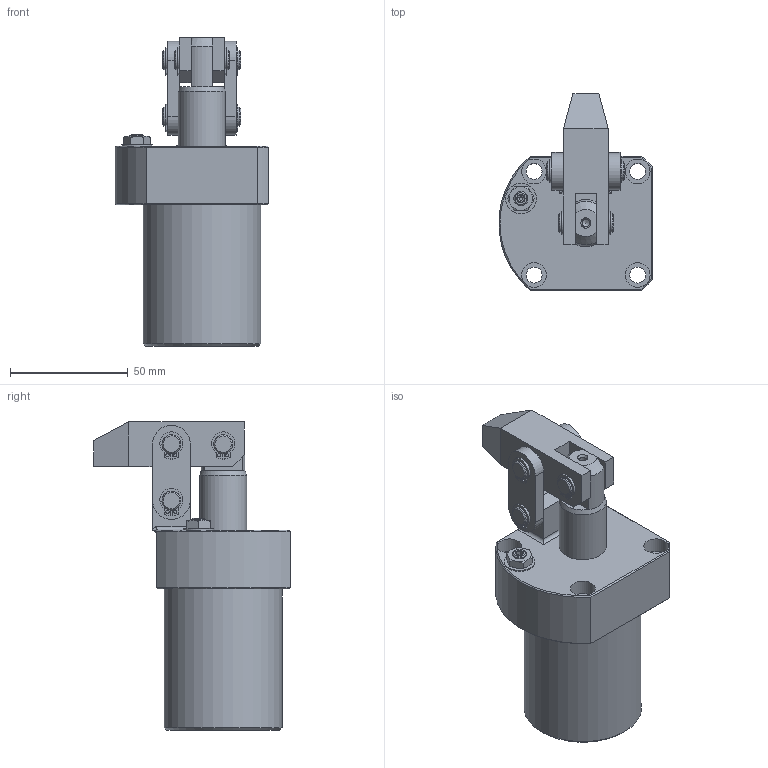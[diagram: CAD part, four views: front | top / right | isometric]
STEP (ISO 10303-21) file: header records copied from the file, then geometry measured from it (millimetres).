
FILE_DESCRIPTION(/* description */ ('Unknown'),/* implementation_level */ '2;1');
FILE_NAME(/* name */ 'HLC-FCM32-L-A',/* time_stamp */ '2022-11-23T03:54:46+08:00',/* author */ ('Unknown'),/* organization */ ('Unknown'),/* preprocessor_version */ 'ST-DEVELOPER v16.7',/* originating_system */ 'DEX',/* authorisation */ $);
FILE_SCHEMA (('AUTOMOTIVE_DESIGN {1 0 10303 214 3 1 1}'));
Length unit declared in the file: millimetre
Products named in the file (8): HLC-FCM32-L-A; HLC-FCM32-L-CYLINDER; HLC-3202-AXLE CENTRE; HLC-32-A; HLC-FCM32-ｹﾔ; HLC-FCM32-C扣; HLC-FCM32-PINªø; HLC-FCM32-PINµu
Assembly tree (14 placements, depth 2):
  HLC-FCM32-L-A
    HLC-FCM32-L-CYLINDER
    HLC-3202-AXLE CENTRE
    HLC-32-A
    HLC-FCM32-ｹﾔ  x2
    HLC-FCM32-C扣  x6
    HLC-FCM32-PINªø  x2
    HLC-FCM32-PINµu
Bounding box: 65.38 x 83.5 x 131 mm (x, y, z)
Volume: 220976.4 mm3; surface area: 52905.8 mm2
Topology: 14 solids, 14 shells, 297 faces, 691 edges, 453 vertices
Faces by surface type: plane 127, cylinder 125, cone 31, bspline 12, torus 2
Full cylindrical faces by diameter (mm): 1.4 x12, 3 x2, 3.2 x1, 4.1 x2, 6 x1, 6.8 x4, 7.5 x6, 8 x18, 9 x2, 10.5 x4, 13 x1, 20 x2, 31.5 x1, 32 x1, 50 x1
Entity records: 5516 total; most frequent: CARTESIAN_POINT 1211, DIRECTION 845, ORIENTED_EDGE 730, EDGE_CURVE 365, AXIS2_PLACEMENT_3D 355, FACE_BOUND 308, EDGE_LOOP 307, VERTEX_POINT 269
